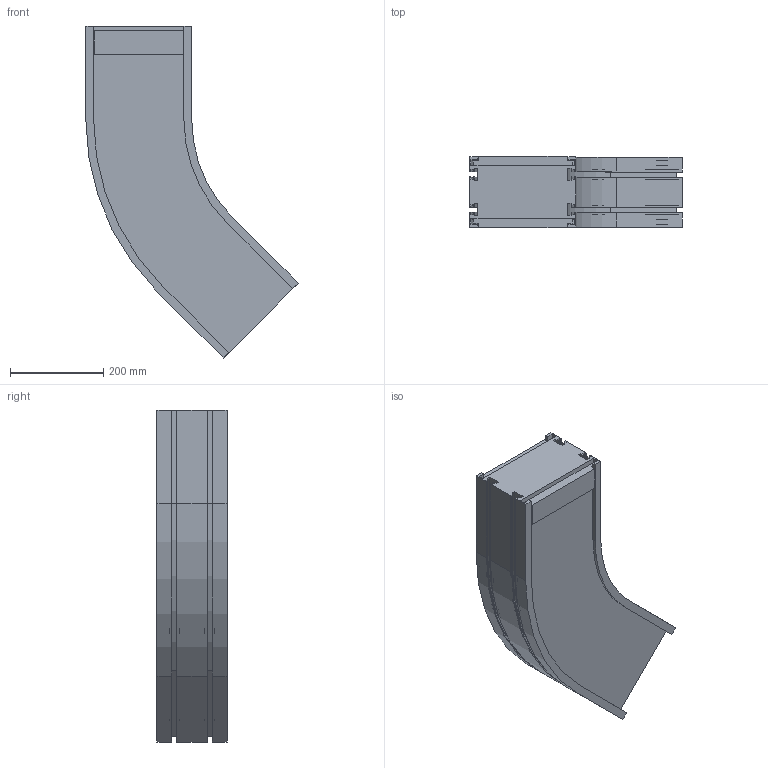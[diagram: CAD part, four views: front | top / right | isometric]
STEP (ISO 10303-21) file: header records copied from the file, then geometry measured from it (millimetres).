
FILE_DESCRIPTION (( 'STEP AP203' ), '1' );
FILE_NAME ('F2-750-C45.STEP', '2009-02-16T12:20:48', ( 'faber' ), ( '' ), 'SwSTEP 2.0', 'SolidWorks 2008', '' );
FILE_SCHEMA (( 'CONFIG_CONTROL_DESIGN' ));
Length unit declared in the file: millimetre
Products named in the file (3): F2-750-C45; Tapis_750; Courbe_ 750
Assembly tree (3 placements, depth 2):
  F2-750-C45
    Courbe_ 750
    Tapis_750  x2
Bounding box: 455.26 x 152.88 x 711.59 mm (x, y, z)
Volume: 18627844.4 mm3; surface area: 1030825.6 mm2
Topology: 3 solids, 3 shells, 190 faces, 552 edges, 368 vertices
Faces by surface type: plane 148, cylinder 42
Entity records: 6273 total; most frequent: CARTESIAN_POINT 1066, ORIENTED_EDGE 1056, DIRECTION 984, EDGE_CURVE 528, LINE 444, VECTOR 444, VERTEX_POINT 352, AXIS2_PLACEMENT_3D 270
